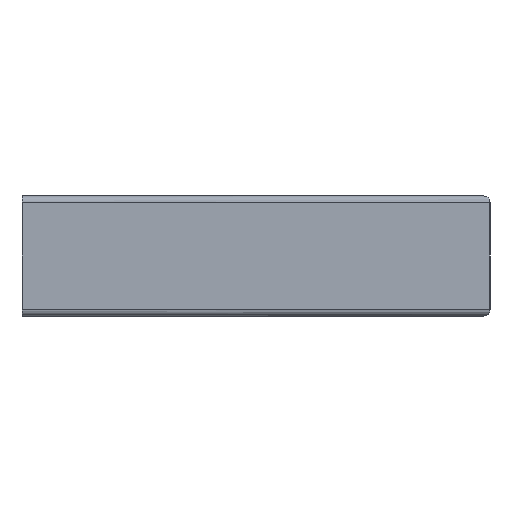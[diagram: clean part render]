
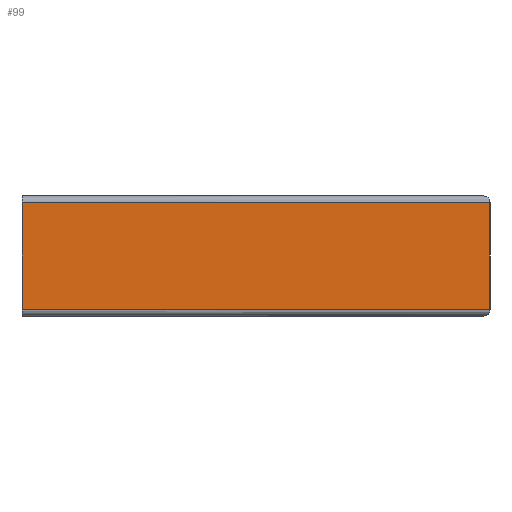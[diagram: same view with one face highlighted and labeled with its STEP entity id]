
A CAD part, left-side view. The second image highlights one B-rep face of the part: STEP entity #99.
In plain terms, the highlighted planar face has unit normal (-1, 0, 0).
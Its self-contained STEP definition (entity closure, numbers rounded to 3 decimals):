
#99 = ADVANCED_FACE( '', ( #151 ), #152, .T. );
#151 = FACE_OUTER_BOUND( '', #205, .T. );
#152 = PLANE( '', #206 );
#205 = EDGE_LOOP( '', ( #392, #393, #394, #395 ) );
#206 = AXIS2_PLACEMENT_3D( '', #396, #397, #398 );
#392 = ORIENTED_EDGE( '', *, *, #470, .F. );
#393 = ORIENTED_EDGE( '', *, *, #473, .F. );
#394 = ORIENTED_EDGE( '', *, *, #471, .T. );
#395 = ORIENTED_EDGE( '', *, *, #433, .F. );
#396 = CARTESIAN_POINT( '', ( -14.999, 0., -4. ) );
#397 = DIRECTION( '', ( -1., 0., 0. ) );
#398 = DIRECTION( '', ( 0., 0., -1. ) );
#433 = EDGE_CURVE( '', #513, #493, #515, .T. );
#470 = EDGE_CURVE( '', #569, #513, #571, .T. );
#471 = EDGE_CURVE( '', #572, #493, #573, .T. );
#473 = EDGE_CURVE( '', #572, #569, #575, .T. );
#493 = VERTEX_POINT( '', #599 );
#513 = VERTEX_POINT( '', #629 );
#515 = LINE( '', #632, #633 );
#569 = VERTEX_POINT( '', #740 );
#571 = LINE( '', #742, #743 );
#572 = VERTEX_POINT( '', #744 );
#573 = LINE( '', #745, #746 );
#575 = LINE( '', #748, #749 );
#599 = CARTESIAN_POINT( '', ( -14.999, -35., -4. ) );
#629 = CARTESIAN_POINT( '', ( -14.999, -35., 4. ) );
#632 = CARTESIAN_POINT( '', ( -14.999, -35., 4.25 ) );
#633 = VECTOR( '', #783, 1. );
#740 = CARTESIAN_POINT( '', ( -14.999, 0., 4. ) );
#742 = CARTESIAN_POINT( '', ( -14.999, 0., 4. ) );
#743 = VECTOR( '', #846, 1. );
#744 = CARTESIAN_POINT( '', ( -14.999, 0., -4. ) );
#745 = CARTESIAN_POINT( '', ( -14.999, 0., -4. ) );
#746 = VECTOR( '', #847, 1. );
#748 = CARTESIAN_POINT( '', ( -14.999, 0., -4. ) );
#749 = VECTOR( '', #851, 1. );
#783 = DIRECTION( '', ( 0., 0., -1. ) );
#846 = DIRECTION( '', ( 0., -1., 0. ) );
#847 = DIRECTION( '', ( 0., -1., 0. ) );
#851 = DIRECTION( '', ( 0., 0., 1. ) );
